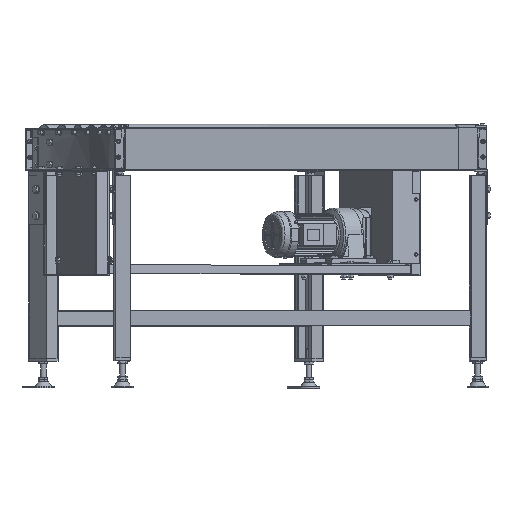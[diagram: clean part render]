
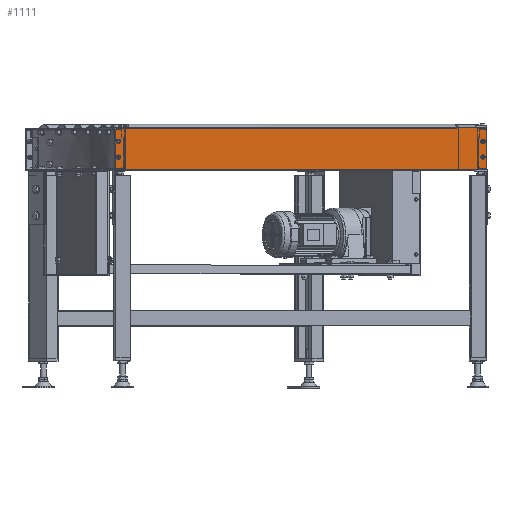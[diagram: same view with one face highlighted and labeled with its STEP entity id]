
A CAD part, top view. The second image highlights one B-rep face of the part: STEP entity #1111.
In plain terms, the highlighted planar face has unit normal (0, 0, 1).
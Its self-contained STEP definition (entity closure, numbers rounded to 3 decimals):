
#1111=ADVANCED_FACE('',(#6531,#6532,#6533,#6534,#6535),#6530,.T.);
#6530=PLANE('',#31999);
#6531=FACE_OUTER_BOUND('',#32000,.T.);
#6532=FACE_BOUND('',#32001,.T.);
#6533=FACE_BOUND('',#32002,.T.);
#6534=FACE_BOUND('',#32003,.T.);
#6535=FACE_BOUND('',#32004,.T.);
#31996=CARTESIAN_POINT('',(1940.,0.,1.6));
#31997=DIRECTION('',(0.,0.,1.));
#31998=DIRECTION('',(-1.,0.,0.));
#31999=AXIS2_PLACEMENT_3D('',#31996,#31997,#31998);
#32000=EDGE_LOOP('',(#46244,#46245,#46246,#46247));
#32001=EDGE_LOOP('',(#46248,#46249));
#32002=EDGE_LOOP('',(#46250,#46251));
#32003=EDGE_LOOP('',(#46252,#46253));
#32004=EDGE_LOOP('',(#46254,#46255));
#46244=ORIENTED_EDGE('',*,*,#58438,.F.);
#46245=ORIENTED_EDGE('',*,*,#58953,.F.);
#46246=ORIENTED_EDGE('',*,*,#58419,.F.);
#46247=ORIENTED_EDGE('',*,*,#58947,.F.);
#46248=ORIENTED_EDGE('',*,*,#58877,.F.);
#46249=ORIENTED_EDGE('',*,*,#58878,.F.);
#46250=ORIENTED_EDGE('',*,*,#58874,.F.);
#46251=ORIENTED_EDGE('',*,*,#58875,.F.);
#46252=ORIENTED_EDGE('',*,*,#58941,.F.);
#46253=ORIENTED_EDGE('',*,*,#58942,.F.);
#46254=ORIENTED_EDGE('',*,*,#58937,.F.);
#46255=ORIENTED_EDGE('',*,*,#58938,.F.);
#58419=EDGE_CURVE('',#67812,#67819,#67820,.T.);
#58438=EDGE_CURVE('',#67944,#67888,#67951,.T.);
#58874=EDGE_CURVE('',#70868,#70875,#70876,.T.);
#58875=EDGE_CURVE('',#70875,#70868,#70882,.T.);
#58877=EDGE_CURVE('',#70888,#70895,#70896,.T.);
#58878=EDGE_CURVE('',#70895,#70888,#70902,.T.);
#58937=EDGE_CURVE('',#71297,#71304,#71305,.T.);
#58938=EDGE_CURVE('',#71304,#71297,#71311,.T.);
#58941=EDGE_CURVE('',#71324,#71331,#71332,.T.);
#58942=EDGE_CURVE('',#71331,#71324,#71338,.T.);
#58947=EDGE_CURVE('',#67888,#67812,#71372,.T.);
#58953=EDGE_CURVE('',#67819,#67944,#71408,.T.);
#67812=VERTEX_POINT('',#114878);
#67819=VERTEX_POINT('',#114882);
#67820=LINE('',#114883,#114884);
#67888=VERTEX_POINT('',#114923);
#67944=VERTEX_POINT('',#114957);
#67951=LINE('',#114961,#114962);
#70868=VERTEX_POINT('',#117755);
#70875=VERTEX_POINT('',#117758);
#70876=CIRCLE('',#117762,3.5);
#70882=CIRCLE('',#117766,3.5);
#70888=VERTEX_POINT('',#117767);
#70895=VERTEX_POINT('',#117770);
#70896=CIRCLE('',#117774,3.5);
#70902=CIRCLE('',#117778,3.5);
#71297=VERTEX_POINT('',#118021);
#71304=VERTEX_POINT('',#118024);
#71305=CIRCLE('',#118028,3.5);
#71311=CIRCLE('',#118032,3.5);
#71324=VERTEX_POINT('',#118038);
#71331=VERTEX_POINT('',#118041);
#71332=CIRCLE('',#118045,3.5);
#71338=CIRCLE('',#118049,3.5);
#71372=LINE('',#118066,#118067);
#71408=LINE('',#118084,#118085);
#114878=CARTESIAN_POINT('',(870.,-10.,1.6));
#114882=CARTESIAN_POINT('',(1930.,-10.,1.6));
#114883=CARTESIAN_POINT('',(870.,-10.,1.6));
#114884=VECTOR('',#114885,1060.);
#114885=DIRECTION('',(1.,0.,0.));
#114923=CARTESIAN_POINT('',(870.,-130.,1.6));
#114957=CARTESIAN_POINT('',(1930.,-130.,1.6));
#114961=CARTESIAN_POINT('',(1930.,-130.,1.6));
#114962=VECTOR('',#114963,1060.);
#114963=DIRECTION('',(-1.,0.,0.));
#117755=CARTESIAN_POINT('',(1916.2,-48.5,1.6));
#117758=CARTESIAN_POINT('',(1923.2,-48.5,1.6));
#117759=CARTESIAN_POINT('',(1919.7,-48.5,1.6));
#117760=DIRECTION('',(0.,0.,1.));
#117761=DIRECTION('',(1.,0.,0.));
#117762=AXIS2_PLACEMENT_3D('',#117759,#117760,#117761);
#117763=CARTESIAN_POINT('',(1919.7,-48.5,1.6));
#117764=DIRECTION('',(0.,0.,1.));
#117765=DIRECTION('',(1.,0.,0.));
#117766=AXIS2_PLACEMENT_3D('',#117763,#117764,#117765);
#117767=CARTESIAN_POINT('',(1916.2,-93.5,1.6));
#117770=CARTESIAN_POINT('',(1923.2,-93.5,1.6));
#117771=CARTESIAN_POINT('',(1919.7,-93.5,1.6));
#117772=DIRECTION('',(0.,0.,1.));
#117773=DIRECTION('',(1.,0.,0.));
#117774=AXIS2_PLACEMENT_3D('',#117771,#117772,#117773);
#117775=CARTESIAN_POINT('',(1919.7,-93.5,1.6));
#117776=DIRECTION('',(0.,0.,1.));
#117777=DIRECTION('',(1.,0.,0.));
#117778=AXIS2_PLACEMENT_3D('',#117775,#117776,#117777);
#118021=CARTESIAN_POINT('',(876.8,-48.5,1.6));
#118024=CARTESIAN_POINT('',(883.8,-48.5,1.6));
#118025=CARTESIAN_POINT('',(880.3,-48.5,1.6));
#118026=DIRECTION('',(0.,0.,1.));
#118027=DIRECTION('',(1.,0.,0.));
#118028=AXIS2_PLACEMENT_3D('',#118025,#118026,#118027);
#118029=CARTESIAN_POINT('',(880.3,-48.5,1.6));
#118030=DIRECTION('',(0.,0.,1.));
#118031=DIRECTION('',(1.,0.,0.));
#118032=AXIS2_PLACEMENT_3D('',#118029,#118030,#118031);
#118038=CARTESIAN_POINT('',(876.8,-93.5,1.6));
#118041=CARTESIAN_POINT('',(883.8,-93.5,1.6));
#118042=CARTESIAN_POINT('',(880.3,-93.5,1.6));
#118043=DIRECTION('',(0.,0.,1.));
#118044=DIRECTION('',(1.,0.,0.));
#118045=AXIS2_PLACEMENT_3D('',#118042,#118043,#118044);
#118046=CARTESIAN_POINT('',(880.3,-93.5,1.6));
#118047=DIRECTION('',(0.,0.,1.));
#118048=DIRECTION('',(1.,0.,0.));
#118049=AXIS2_PLACEMENT_3D('',#118046,#118047,#118048);
#118066=CARTESIAN_POINT('',(870.,-130.,1.6));
#118067=VECTOR('',#118068,120.);
#118068=DIRECTION('',(0.,1.,0.));
#118084=CARTESIAN_POINT('',(1930.,-10.,1.6));
#118085=VECTOR('',#118086,120.);
#118086=DIRECTION('',(0.,-1.,0.));
